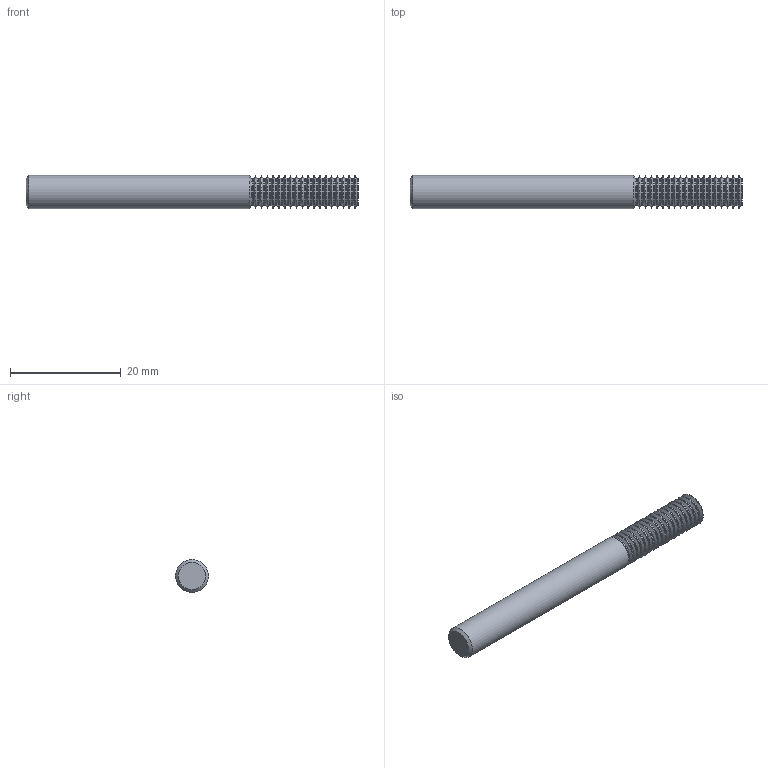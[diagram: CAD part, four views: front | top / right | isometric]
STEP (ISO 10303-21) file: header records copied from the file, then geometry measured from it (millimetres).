
FILE_DESCRIPTION(/* description */ (''),/* implementation_level */ '2;1');
FILE_NAME(/* name */ '00032327-TDM',/* time_stamp */ '2024-02-21T07:07:24+01:00',/* author */ (''),/* organization */ (''),/* preprocessor_version */ 'ST-DEVELOPER v16.5',/* originating_system */ 'HiCAD 2017 2201.0 Build 268',/* authorisation */ '');
FILE_SCHEMA (('AUTOMOTIVE_DESIGN { 1 0 10303 214 1 1 1 1 }'));
Length unit declared in the file: millimetre
Products named in the file (3): Root; ROTATIONSTEIL_0
Assembly tree (2 placements, depth 3):
  Root
    ROTATIONSTEIL_0
      ROTATIONSTEIL_0
Bounding box: 60 x 6 x 6 mm (x, y, z)
Volume: 1562.3 mm3; surface area: 1358.6 mm2
Topology: 2 solids, 2 shells, 118 faces, 232 edges, 118 vertices
Faces by surface type: torus 55, cone 38, cylinder 21, plane 4
Full cylindrical faces by diameter (mm): 4.772 x20, 6 x1
Entity records: 3564 total; most frequent: DIRECTION 476, CARTESIAN_POINT 354, AXIS2_PLACEMENT_3D 238, PRESENTATION_STYLE_ASSIGNMENT 234, COLOUR_RGB 234, DRAUGHTING_PRE_DEFINED_CURVE_FONT 232, CURVE_STYLE 232, OVER_RIDING_STYLED_ITEM 232
